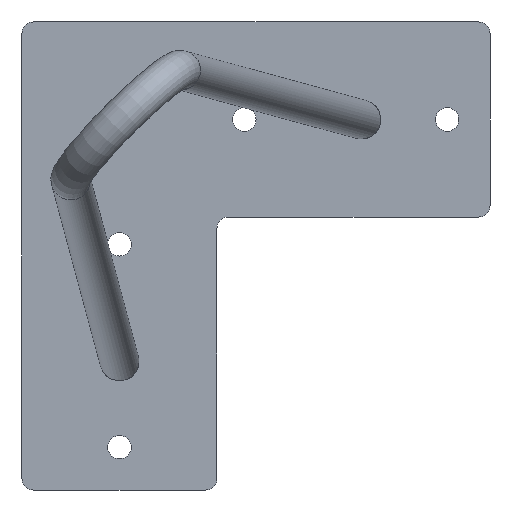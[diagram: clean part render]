
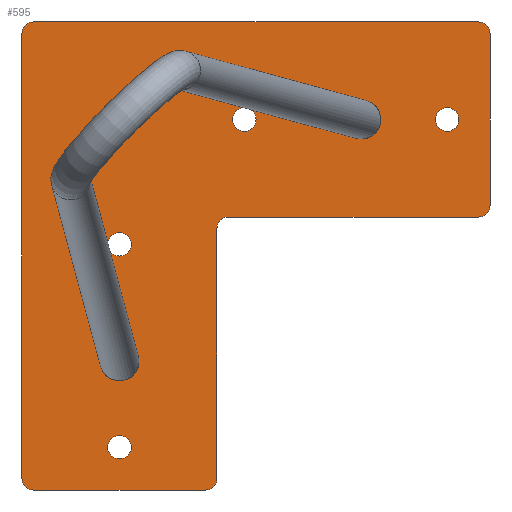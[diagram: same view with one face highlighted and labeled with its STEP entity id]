
A CAD part, front view. The second image highlights one B-rep face of the part: STEP entity #595.
In plain terms, the highlighted planar face has unit normal (0, -1, 0).
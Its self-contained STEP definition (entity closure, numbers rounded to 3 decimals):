
#30=FACE_BOUND('',#96,.T.);
#31=FACE_BOUND('',#97,.T.);
#32=FACE_BOUND('',#98,.T.);
#33=FACE_BOUND('',#99,.T.);
#34=FACE_BOUND('',#100,.T.);
#35=FACE_BOUND('',#101,.T.);
#36=FACE_BOUND('',#102,.T.);
#45=PLANE('',#663);
#62=FACE_OUTER_BOUND('',#95,.T.);
#95=EDGE_LOOP('',(#424,#425,#426,#427,#428,#429,#430,#431,#432,#433,#434,
#435));
#96=EDGE_LOOP('',(#436,#437));
#97=EDGE_LOOP('',(#438,#439));
#98=EDGE_LOOP('',(#440,#441));
#99=EDGE_LOOP('',(#442));
#100=EDGE_LOOP('',(#443));
#101=EDGE_LOOP('',(#444));
#102=EDGE_LOOP('',(#445));
#136=LINE('',#969,#171);
#139=LINE('',#975,#174);
#140=LINE('',#979,#175);
#141=LINE('',#983,#176);
#142=LINE('',#987,#177);
#143=LINE('',#991,#178);
#171=VECTOR('',#774,10.);
#174=VECTOR('',#779,10.);
#175=VECTOR('',#782,10.);
#176=VECTOR('',#785,10.);
#177=VECTOR('',#788,10.);
#178=VECTOR('',#791,10.);
#201=CIRCLE('',#642,5.);
#202=CIRCLE('',#643,5.);
#205=CIRCLE('',#648,5.);
#206=CIRCLE('',#649,5.);
#209=CIRCLE('',#654,5.);
#210=CIRCLE('',#655,5.);
#214=CIRCLE('',#661,3.);
#215=CIRCLE('',#664,3.);
#216=CIRCLE('',#665,3.);
#217=CIRCLE('',#666,3.);
#218=CIRCLE('',#667,3.);
#219=CIRCLE('',#668,3.);
#220=CIRCLE('',#669,3.);
#221=CIRCLE('',#670,3.);
#222=CIRCLE('',#671,3.);
#223=CIRCLE('',#672,3.);
#242=VERTEX_POINT('',#926);
#243=VERTEX_POINT('',#927);
#246=VERTEX_POINT('',#937);
#247=VERTEX_POINT('',#938);
#250=VERTEX_POINT('',#948);
#251=VERTEX_POINT('',#949);
#256=VERTEX_POINT('',#962);
#257=VERTEX_POINT('',#964);
#258=VERTEX_POINT('',#968);
#260=VERTEX_POINT('',#974);
#261=VERTEX_POINT('',#976);
#262=VERTEX_POINT('',#978);
#263=VERTEX_POINT('',#980);
#264=VERTEX_POINT('',#982);
#265=VERTEX_POINT('',#984);
#266=VERTEX_POINT('',#986);
#267=VERTEX_POINT('',#988);
#268=VERTEX_POINT('',#990);
#269=VERTEX_POINT('',#993);
#270=VERTEX_POINT('',#995);
#271=VERTEX_POINT('',#997);
#272=VERTEX_POINT('',#999);
#304=EDGE_CURVE('',#242,#243,#201,.T.);
#305=EDGE_CURVE('',#243,#242,#202,.T.);
#309=EDGE_CURVE('',#246,#247,#205,.T.);
#310=EDGE_CURVE('',#247,#246,#206,.T.);
#314=EDGE_CURVE('',#250,#251,#209,.T.);
#315=EDGE_CURVE('',#251,#250,#210,.T.);
#321=EDGE_CURVE('',#256,#257,#214,.T.);
#323=EDGE_CURVE('',#257,#258,#136,.T.);
#326=EDGE_CURVE('',#260,#256,#139,.T.);
#327=EDGE_CURVE('',#261,#260,#215,.T.);
#328=EDGE_CURVE('',#262,#261,#140,.T.);
#329=EDGE_CURVE('',#263,#262,#216,.T.);
#330=EDGE_CURVE('',#264,#263,#141,.T.);
#331=EDGE_CURVE('',#265,#264,#217,.T.);
#332=EDGE_CURVE('',#266,#265,#142,.T.);
#333=EDGE_CURVE('',#267,#266,#218,.T.);
#334=EDGE_CURVE('',#268,#267,#143,.T.);
#335=EDGE_CURVE('',#258,#268,#219,.T.);
#336=EDGE_CURVE('',#269,#269,#220,.T.);
#337=EDGE_CURVE('',#270,#270,#221,.T.);
#338=EDGE_CURVE('',#271,#271,#222,.T.);
#339=EDGE_CURVE('',#272,#272,#223,.T.);
#424=ORIENTED_EDGE('',*,*,#321,.F.);
#425=ORIENTED_EDGE('',*,*,#326,.F.);
#426=ORIENTED_EDGE('',*,*,#327,.F.);
#427=ORIENTED_EDGE('',*,*,#328,.F.);
#428=ORIENTED_EDGE('',*,*,#329,.F.);
#429=ORIENTED_EDGE('',*,*,#330,.F.);
#430=ORIENTED_EDGE('',*,*,#331,.F.);
#431=ORIENTED_EDGE('',*,*,#332,.F.);
#432=ORIENTED_EDGE('',*,*,#333,.F.);
#433=ORIENTED_EDGE('',*,*,#334,.F.);
#434=ORIENTED_EDGE('',*,*,#335,.F.);
#435=ORIENTED_EDGE('',*,*,#323,.F.);
#436=ORIENTED_EDGE('',*,*,#304,.T.);
#437=ORIENTED_EDGE('',*,*,#305,.T.);
#438=ORIENTED_EDGE('',*,*,#309,.T.);
#439=ORIENTED_EDGE('',*,*,#310,.T.);
#440=ORIENTED_EDGE('',*,*,#314,.T.);
#441=ORIENTED_EDGE('',*,*,#315,.T.);
#442=ORIENTED_EDGE('',*,*,#336,.F.);
#443=ORIENTED_EDGE('',*,*,#337,.F.);
#444=ORIENTED_EDGE('',*,*,#338,.F.);
#445=ORIENTED_EDGE('',*,*,#339,.F.);
#595=ADVANCED_FACE('',(#62,#30,#31,#32,#33,#34,#35,#36),#45,.F.);
#642=AXIS2_PLACEMENT_3D('',#928,#727,#728);
#643=AXIS2_PLACEMENT_3D('',#929,#729,#730);
#648=AXIS2_PLACEMENT_3D('',#939,#740,#741);
#649=AXIS2_PLACEMENT_3D('',#940,#742,#743);
#654=AXIS2_PLACEMENT_3D('',#950,#753,#754);
#655=AXIS2_PLACEMENT_3D('',#951,#755,#756);
#661=AXIS2_PLACEMENT_3D('',#965,#769,#770);
#663=AXIS2_PLACEMENT_3D('',#973,#777,#778);
#664=AXIS2_PLACEMENT_3D('',#977,#780,#781);
#665=AXIS2_PLACEMENT_3D('',#981,#783,#784);
#666=AXIS2_PLACEMENT_3D('',#985,#786,#787);
#667=AXIS2_PLACEMENT_3D('',#989,#789,#790);
#668=AXIS2_PLACEMENT_3D('',#992,#792,#793);
#669=AXIS2_PLACEMENT_3D('',#994,#794,#795);
#670=AXIS2_PLACEMENT_3D('',#996,#796,#797);
#671=AXIS2_PLACEMENT_3D('',#998,#798,#799);
#672=AXIS2_PLACEMENT_3D('',#1000,#800,#801);
#727=DIRECTION('center_axis',(0.,1.,0.));
#728=DIRECTION('ref_axis',(1.,0.,0.));
#729=DIRECTION('center_axis',(0.,1.,0.));
#730=DIRECTION('ref_axis',(1.,0.,0.));
#740=DIRECTION('center_axis',(0.,1.,0.));
#741=DIRECTION('ref_axis',(1.,0.,0.));
#742=DIRECTION('center_axis',(0.,1.,0.));
#743=DIRECTION('ref_axis',(1.,0.,0.));
#753=DIRECTION('center_axis',(0.,1.,0.));
#754=DIRECTION('ref_axis',(1.,0.,0.));
#755=DIRECTION('center_axis',(0.,1.,0.));
#756=DIRECTION('ref_axis',(1.,0.,0.));
#769=DIRECTION('center_axis',(0.,1.,0.));
#770=DIRECTION('ref_axis',(-0.707,0.,-0.707));
#774=DIRECTION('',(0.,0.,1.));
#777=DIRECTION('center_axis',(0.,1.,0.));
#778=DIRECTION('ref_axis',(0.,0.,1.));
#779=DIRECTION('',(-1.,0.,0.));
#780=DIRECTION('center_axis',(0.,1.,0.));
#781=DIRECTION('ref_axis',(0.707,0.,-0.707));
#782=DIRECTION('',(0.,0.,-1.));
#783=DIRECTION('center_axis',(0.,-1.,0.));
#784=DIRECTION('ref_axis',(-0.707,0.,0.707));
#785=DIRECTION('',(-1.,0.,0.));
#786=DIRECTION('center_axis',(0.,1.,0.));
#787=DIRECTION('ref_axis',(0.707,0.,-0.707));
#788=DIRECTION('',(0.,0.,-1.));
#789=DIRECTION('center_axis',(0.,1.,0.));
#790=DIRECTION('ref_axis',(0.707,0.,0.707));
#791=DIRECTION('',(1.,0.,0.));
#792=DIRECTION('center_axis',(0.,1.,0.));
#793=DIRECTION('ref_axis',(-0.707,0.,0.707));
#794=DIRECTION('center_axis',(0.,-1.,0.));
#795=DIRECTION('ref_axis',(1.,0.,0.));
#796=DIRECTION('center_axis',(0.,-1.,0.));
#797=DIRECTION('ref_axis',(1.,0.,0.));
#798=DIRECTION('center_axis',(0.,-1.,0.));
#799=DIRECTION('ref_axis',(1.,0.,0.));
#800=DIRECTION('center_axis',(0.,-1.,0.));
#801=DIRECTION('ref_axis',(1.,0.,0.));
#926=CARTESIAN_POINT('',(30.,0.,15.06));
#927=CARTESIAN_POINT('',(20.,0.,15.06));
#928=CARTESIAN_POINT('Origin',(25.,0.,15.06));
#929=CARTESIAN_POINT('Origin',(25.,0.,15.06));
#937=CARTESIAN_POINT('',(30.,0.,-46.94));
#938=CARTESIAN_POINT('',(20.,0.,-46.94));
#939=CARTESIAN_POINT('Origin',(25.,0.,-46.94));
#940=CARTESIAN_POINT('Origin',(25.,0.,-46.94));
#948=CARTESIAN_POINT('',(92.,0.,15.06));
#949=CARTESIAN_POINT('',(82.,0.,15.06));
#950=CARTESIAN_POINT('Origin',(87.,0.,15.06));
#951=CARTESIAN_POINT('Origin',(87.,0.,15.06));
#962=CARTESIAN_POINT('',(3.,0.,-79.94));
#964=CARTESIAN_POINT('',(0.,0.,-76.94));
#965=CARTESIAN_POINT('Origin',(3.,0.,-76.94));
#968=CARTESIAN_POINT('',(0.,0.,37.06));
#969=CARTESIAN_POINT('',(0.,0.,-79.94));
#973=CARTESIAN_POINT('Origin',(60.,0.,-19.94));
#974=CARTESIAN_POINT('',(47.,0.,-79.94));
#975=CARTESIAN_POINT('',(50.,0.,-79.94));
#976=CARTESIAN_POINT('',(50.,0.,-76.94));
#977=CARTESIAN_POINT('Origin',(47.,0.,-76.94));
#978=CARTESIAN_POINT('',(50.,0.,-12.94));
#979=CARTESIAN_POINT('',(50.,0.,-9.94));
#980=CARTESIAN_POINT('',(53.,0.,-9.94));
#981=CARTESIAN_POINT('Origin',(53.,0.,-12.94));
#982=CARTESIAN_POINT('',(117.,0.,-9.94));
#983=CARTESIAN_POINT('',(120.,0.,-9.94));
#984=CARTESIAN_POINT('',(120.,0.,-6.94));
#985=CARTESIAN_POINT('Origin',(117.,0.,-6.94));
#986=CARTESIAN_POINT('',(120.,0.,37.06));
#987=CARTESIAN_POINT('',(120.,0.,40.06));
#988=CARTESIAN_POINT('',(117.,0.,40.06));
#989=CARTESIAN_POINT('Origin',(117.,0.,37.06));
#990=CARTESIAN_POINT('',(3.,0.,40.06));
#991=CARTESIAN_POINT('',(0.,0.,40.06));
#992=CARTESIAN_POINT('Origin',(3.,0.,37.06));
#993=CARTESIAN_POINT('',(106.,0.,15.06));
#994=CARTESIAN_POINT('Origin',(109.,0.,15.06));
#995=CARTESIAN_POINT('',(54.,0.,15.06));
#996=CARTESIAN_POINT('Origin',(57.,0.,15.06));
#997=CARTESIAN_POINT('',(22.,0.,-68.94));
#998=CARTESIAN_POINT('Origin',(25.,0.,-68.94));
#999=CARTESIAN_POINT('',(22.,0.,-16.94));
#1000=CARTESIAN_POINT('Origin',(25.,0.,-16.94));
